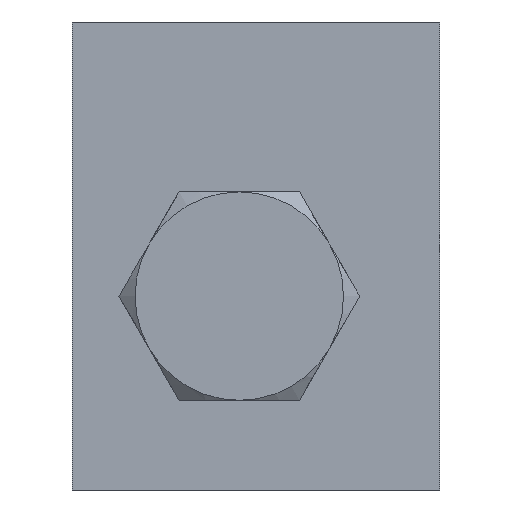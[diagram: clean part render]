
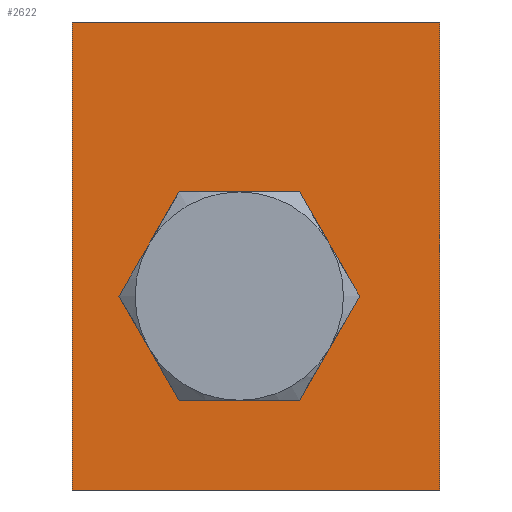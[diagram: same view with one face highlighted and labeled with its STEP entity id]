
A CAD part, left-side view. The second image highlights one B-rep face of the part: STEP entity #2622.
In plain terms, the highlighted planar face has unit normal (-1, 0, 0).
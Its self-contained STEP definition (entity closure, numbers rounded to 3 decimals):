
#59 = DIRECTION ( 'NONE',  ( 0., 0.5, -0.866 ) ) ;
#167 = VECTOR ( 'NONE', #4444, 1000. ) ;
#173 = LINE ( 'NONE', #2057, #3109 ) ;
#260 = EDGE_CURVE ( 'NONE', #3880, #3395, #3451, .T. ) ;
#278 = ORIENTED_EDGE ( 'NONE', *, *, #3097, .F. ) ;
#307 = VECTOR ( 'NONE', #1027, 1000. ) ;
#408 = ORIENTED_EDGE ( 'NONE', *, *, #2645, .F. ) ;
#433 = CARTESIAN_POINT ( 'NONE',  ( 0., 0., -70. ) ) ;
#481 = VERTEX_POINT ( 'NONE', #2657 ) ;
#596 = VECTOR ( 'NONE', #3956, 1000. ) ;
#678 = VERTEX_POINT ( 'NONE', #4679 ) ;
#832 = VECTOR ( 'NONE', #2149, 1000. ) ;
#856 = CARTESIAN_POINT ( 'NONE',  ( 0., -16., -56.588 ) ) ;
#871 = CARTESIAN_POINT ( 'NONE',  ( 0., -55., -70. ) ) ;
#1027 = DIRECTION ( 'NONE',  ( 0., -1., 0. ) ) ;
#1132 = DIRECTION ( 'NONE',  ( 0., 0., 1. ) ) ;
#1175 = CARTESIAN_POINT ( 'NONE',  ( 0., -34., -56.588 ) ) ;
#1241 = VECTOR ( 'NONE', #2634, 1000. ) ;
#1288 = AXIS2_PLACEMENT_3D ( 'NONE', #2980, #3356, #1132 ) ;
#1333 = VERTEX_POINT ( 'NONE', #2219 ) ;
#1340 = ORIENTED_EDGE ( 'NONE', *, *, #3426, .F. ) ;
#1465 = VERTEX_POINT ( 'NONE', #4360 ) ;
#1473 = ORIENTED_EDGE ( 'NONE', *, *, #4219, .F. ) ;
#1560 = DIRECTION ( 'NONE',  ( 0., -0.5, 0.866 ) ) ;
#1680 = CARTESIAN_POINT ( 'NONE',  ( 0., -55., -70. ) ) ;
#1731 = CARTESIAN_POINT ( 'NONE',  ( 0., -7., -41. ) ) ;
#1872 = CARTESIAN_POINT ( 'NONE',  ( 0., -43., -41. ) ) ;
#1911 = EDGE_CURVE ( 'NONE', #678, #2150, #173, .T. ) ;
#2057 = CARTESIAN_POINT ( 'NONE',  ( 0., -55., 0. ) ) ;
#2074 = LINE ( 'NONE', #2384, #2833 ) ;
#2118 = CARTESIAN_POINT ( 'NONE',  ( 0., -16., -56.588 ) ) ;
#2149 = DIRECTION ( 'NONE',  ( 0., 0., 1. ) ) ;
#2150 = VERTEX_POINT ( 'NONE', #2579 ) ;
#2195 = LINE ( 'NONE', #1175, #4046 ) ;
#2212 = ORIENTED_EDGE ( 'NONE', *, *, #1911, .T. ) ;
#2219 = CARTESIAN_POINT ( 'NONE',  ( 0., -43., -41. ) ) ;
#2324 = ORIENTED_EDGE ( 'NONE', *, *, #4849, .F. ) ;
#2384 = CARTESIAN_POINT ( 'NONE',  ( 0., -16., -25.412 ) ) ;
#2443 = ORIENTED_EDGE ( 'NONE', *, *, #4783, .F. ) ;
#2500 = EDGE_CURVE ( 'NONE', #4189, #678, #3558, .T. ) ;
#2579 = CARTESIAN_POINT ( 'NONE',  ( 0., 0., 0. ) ) ;
#2622 = ADVANCED_FACE ( 'NONE', ( #4085, #4192 ), #4799, .T. ) ;
#2624 = EDGE_LOOP ( 'NONE', ( #2443, #1473, #408, #4283, #3324, #2324 ) ) ;
#2633 = VERTEX_POINT ( 'NONE', #4092 ) ;
#2634 = DIRECTION ( 'NONE',  ( 0., 0., 1. ) ) ;
#2645 = EDGE_CURVE ( 'NONE', #1333, #481, #3104, .T. ) ;
#2657 = CARTESIAN_POINT ( 'NONE',  ( 0., -34., -25.412 ) ) ;
#2779 = CARTESIAN_POINT ( 'NONE',  ( 0., -34., -25.412 ) ) ;
#2833 = VECTOR ( 'NONE', #59, 1000. ) ;
#2980 = CARTESIAN_POINT ( 'NONE',  ( 0., -55., 0. ) ) ;
#3093 = LINE ( 'NONE', #2779, #3836 ) ;
#3097 = EDGE_CURVE ( 'NONE', #4189, #4123, #3904, .T. ) ;
#3104 = LINE ( 'NONE', #1872, #167 ) ;
#3109 = VECTOR ( 'NONE', #4263, 1000. ) ;
#3199 = ORIENTED_EDGE ( 'NONE', *, *, #2500, .T. ) ;
#3324 = ORIENTED_EDGE ( 'NONE', *, *, #260, .F. ) ;
#3356 = DIRECTION ( 'NONE',  ( -1., 0., 0. ) ) ;
#3395 = VERTEX_POINT ( 'NONE', #4097 ) ;
#3426 = EDGE_CURVE ( 'NONE', #4123, #2150, #3963, .T. ) ;
#3451 = LINE ( 'NONE', #856, #307 ) ;
#3466 = DIRECTION ( 'NONE',  ( 0., 1., 0. ) ) ;
#3558 = LINE ( 'NONE', #3603, #832 ) ;
#3603 = CARTESIAN_POINT ( 'NONE',  ( 0., -55., 0. ) ) ;
#3782 = VECTOR ( 'NONE', #3881, 1000. ) ;
#3836 = VECTOR ( 'NONE', #3466, 1000. ) ;
#3880 = VERTEX_POINT ( 'NONE', #2118 ) ;
#3881 = DIRECTION ( 'NONE',  ( 0., 1., 0. ) ) ;
#3904 = LINE ( 'NONE', #1680, #3782 ) ;
#3956 = DIRECTION ( 'NONE',  ( 0., -0.5, -0.866 ) ) ;
#3963 = LINE ( 'NONE', #4845, #1241 ) ;
#4046 = VECTOR ( 'NONE', #1560, 1000. ) ;
#4085 = FACE_BOUND ( 'NONE', #2624, .T. ) ;
#4092 = CARTESIAN_POINT ( 'NONE',  ( 0., -16., -25.412 ) ) ;
#4097 = CARTESIAN_POINT ( 'NONE',  ( 0., -34., -56.588 ) ) ;
#4123 = VERTEX_POINT ( 'NONE', #433 ) ;
#4189 = VERTEX_POINT ( 'NONE', #871 ) ;
#4192 = FACE_OUTER_BOUND ( 'NONE', #4576, .T. ) ;
#4219 = EDGE_CURVE ( 'NONE', #481, #2633, #3093, .T. ) ;
#4263 = DIRECTION ( 'NONE',  ( 0., 1., 0. ) ) ;
#4283 = ORIENTED_EDGE ( 'NONE', *, *, #4720, .F. ) ;
#4360 = CARTESIAN_POINT ( 'NONE',  ( 0., -7., -41. ) ) ;
#4432 = LINE ( 'NONE', #1731, #596 ) ;
#4444 = DIRECTION ( 'NONE',  ( 0., 0.5, 0.866 ) ) ;
#4576 = EDGE_LOOP ( 'NONE', ( #1340, #278, #3199, #2212 ) ) ;
#4679 = CARTESIAN_POINT ( 'NONE',  ( 0., -55., 0. ) ) ;
#4720 = EDGE_CURVE ( 'NONE', #3395, #1333, #2195, .T. ) ;
#4783 = EDGE_CURVE ( 'NONE', #2633, #1465, #2074, .T. ) ;
#4799 = PLANE ( 'NONE',  #1288 ) ;
#4845 = CARTESIAN_POINT ( 'NONE',  ( 0., 0., 0. ) ) ;
#4849 = EDGE_CURVE ( 'NONE', #1465, #3880, #4432, .T. ) ;
